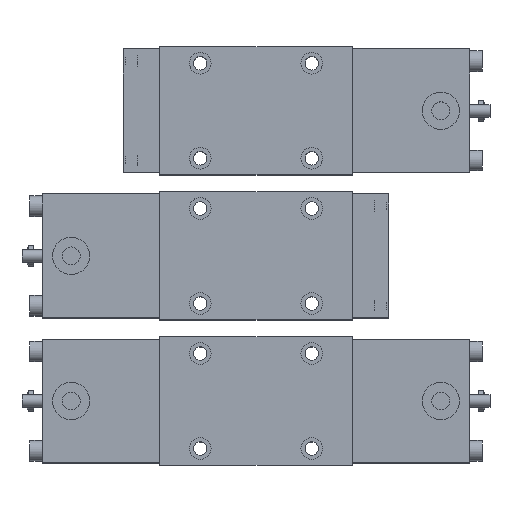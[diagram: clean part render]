
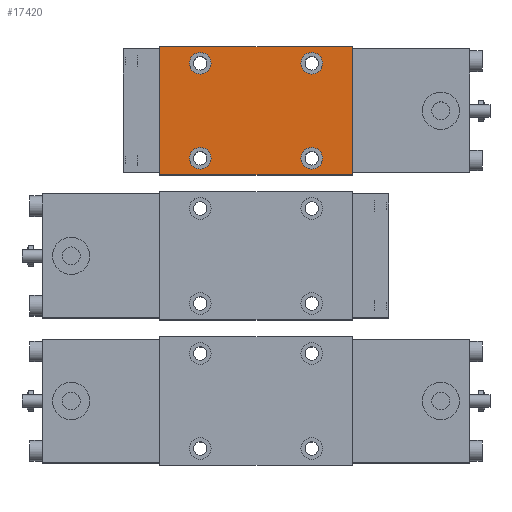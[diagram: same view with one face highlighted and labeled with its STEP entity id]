
A CAD part, top view. The second image highlights one B-rep face of the part: STEP entity #17420.
In plain terms, the highlighted planar face has unit normal (0, 0, 1).
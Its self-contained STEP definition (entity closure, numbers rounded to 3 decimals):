
#17420=ADVANCED_FACE('', (#17430,#17440,#17450,#17460,#17470), #17480, 
.T.);
#55500=AXIS2_PLACEMENT_3D('Ax2Pl3d', #55510, #55520, #55530);
#55580=AXIS2_PLACEMENT_3D('Ax2Pl3d', #55590, #55600, #55610);
#55660=AXIS2_PLACEMENT_3D('Ax2Pl3d', #55670, #55680, #55690);
#55740=AXIS2_PLACEMENT_3D('Ax2Pl3d', #55750, #55760, #55770);
#55780=AXIS2_PLACEMENT_3D('Ax2Pl3d', #55790, #55800, #55810);
#75770=CARTESIAN_POINT('', (0.,140.,362.));
#75780=CARTESIAN_POINT('', (0.,140.,362.));
#75790=CARTESIAN_POINT('', (0.,202.,362.));
#75900=CARTESIAN_POINT('', (93.,202.,362.));
#75910=CARTESIAN_POINT('', (93.,202.,362.));
#75920=CARTESIAN_POINT('', (93.,140.,362.));
#55510=CARTESIAN_POINT('HicPkt', (19.5,148.,362.));
#76000=CARTESIAN_POINT('', (19.5,153.25,362.));
#55590=CARTESIAN_POINT('HicPkt', (19.5,194.,362.));
#76010=CARTESIAN_POINT('', (19.5,199.25,362.));
#55670=CARTESIAN_POINT('HicPkt', (73.5,194.,362.));
#76020=CARTESIAN_POINT('', (73.5,199.25,362.));
#55750=CARTESIAN_POINT('HicPkt', (73.5,148.,362.));
#76030=CARTESIAN_POINT('', (73.5,153.25,362.));
#55790=CARTESIAN_POINT('HicPkt', (0.,202.,362.));
#76040=CARTESIAN_POINT('', (93.,140.,362.));
#76050=CARTESIAN_POINT('', (0.,202.,362.));
#82730=CIRCLE('Circle', #55500, 5.25);
#82740=CIRCLE('Circle', #55580, 5.25);
#82750=CIRCLE('Circle', #55660, 5.25);
#82760=CIRCLE('Circle', #55740, 5.25);
#127610=DIRECTION('', (0.,-1.,0.));
#127640=DIRECTION('', (0.,1.,0.));
#55520=DIRECTION('Axis', (0.,0.,1.));
#55530=DIRECTION('RefDirection', (1.,0.,0.));
#55600=DIRECTION('Axis', (0.,0.,1.));
#55610=DIRECTION('RefDirection', (1.,0.,0.));
#55680=DIRECTION('Axis', (0.,0.,1.));
#55690=DIRECTION('RefDirection', (1.,0.,0.));
#55760=DIRECTION('Axis', (0.,0.,1.));
#55770=DIRECTION('RefDirection', (1.,0.,0.));
#55800=DIRECTION('Axis', (0.,0.,1.));
#55810=DIRECTION('RefDirection', (1.,0.,0.));
#127660=DIRECTION('', (1.,0.,0.));
#127670=DIRECTION('', (-1.,0.,0.));
#147420=EDGE_CURVE('', #147430, #147400, #147440, .T.);
#147660=EDGE_CURVE('', #147670, #147640, #147680, .T.);
#147830=EDGE_CURVE('', #147840, #147840, #82730, .T.);
#147850=EDGE_CURVE('', #147860, #147860, #82740, .T.);
#147870=EDGE_CURVE('', #147880, #147880, #82750, .T.);
#147890=EDGE_CURVE('', #147900, #147900, #82760, .T.);
#147910=EDGE_CURVE('', #147400, #147670, #147920, .T.);
#147930=EDGE_CURVE('', #147640, #147430, #147940, .T.);
#176940=EDGE_LOOP('Edge_loop', (#176950,#176960,#176970,#176980));
#176990=EDGE_LOOP('Edge_loop', (#177000));
#177010=EDGE_LOOP('Edge_loop', (#177020));
#177030=EDGE_LOOP('Edge_loop', (#177040));
#177050=EDGE_LOOP('Edge_loop', (#177060));
#17440=FACE_BOUND('', #176990, .T.);
#17450=FACE_BOUND('', #177010, .T.);
#17460=FACE_BOUND('', #177030, .T.);
#17470=FACE_BOUND('', #177050, .T.);
#17430=FACE_OUTER_BOUND('Face_outer_bound', #176940, .T.);
#147440=LINE('Line', #75780, #204970);
#147680=LINE('Line', #75910, #205000);
#147920=LINE('Line', #76040, #205020);
#147940=LINE('Line', #76050, #205030);
#176950=ORIENTED_EDGE('', *, *, #147420, .T.);
#176960=ORIENTED_EDGE('', *, *, #147910, .T.);
#176970=ORIENTED_EDGE('', *, *, #147660, .T.);
#176980=ORIENTED_EDGE('', *, *, #147930, .T.);
#177000=ORIENTED_EDGE('', *, *, #147830, .F.);
#177020=ORIENTED_EDGE('', *, *, #147850, .F.);
#177040=ORIENTED_EDGE('', *, *, #147870, .F.);
#177060=ORIENTED_EDGE('', *, *, #147890, .F.);
#17480=PLANE('Plane', #55780);
#204970=VECTOR('', #127610, 62.);
#205000=VECTOR('', #127640, 62.);
#205020=VECTOR('', #127660, 93.);
#205030=VECTOR('', #127670, 93.);
#147400=VERTEX_POINT('', #75770);
#147430=VERTEX_POINT('', #75790);
#147640=VERTEX_POINT('', #75900);
#147670=VERTEX_POINT('', #75920);
#147840=VERTEX_POINT('', #76000);
#147860=VERTEX_POINT('', #76010);
#147880=VERTEX_POINT('', #76020);
#147900=VERTEX_POINT('', #76030);
